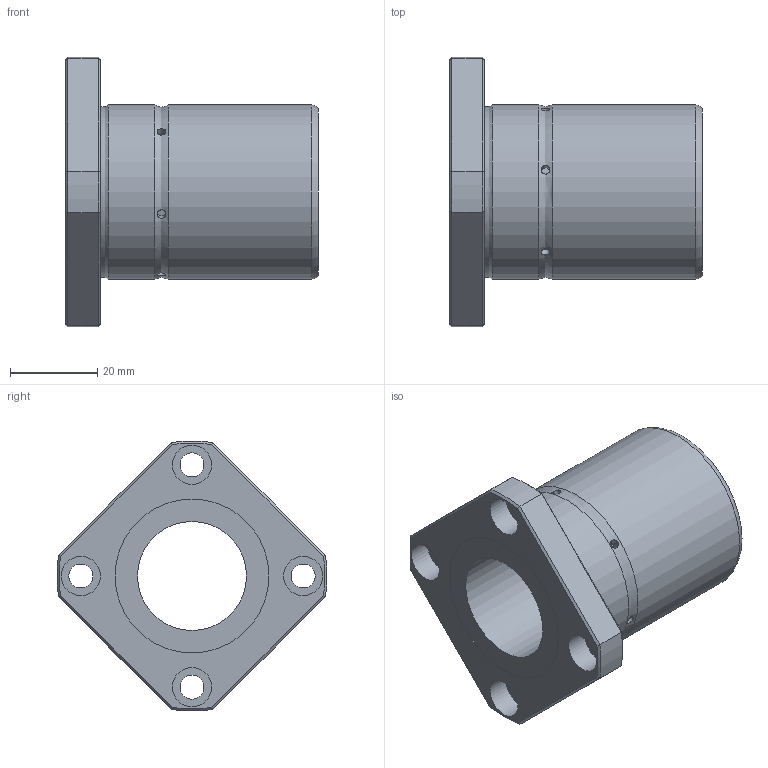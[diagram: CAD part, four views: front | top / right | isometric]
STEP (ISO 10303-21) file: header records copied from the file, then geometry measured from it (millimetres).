
FILE_DESCRIPTION((''),'2;1');
FILE_NAME('D:\製品 (図面)\カタログ用3D\リニアベアリング関連\STEP形式\LFK-OH\LFK25-OH.stp','2010-06-04T08:56:25',('Tsuchiya'),(''),'Autodesk Inventor 10','Autodesk Inventor 10','');
FILE_SCHEMA(('AUTOMOTIVE_DESIGN { 1 0 10303 214 1 1 1 1 }'));
Length unit declared in the file: millimetre
Products named in the file (1): LFK25-OH
Bounding box: 58 x 61.92 x 61.92 mm (x, y, z)
Volume: 51665 mm3; surface area: 16754.2 mm2
Topology: 1 solids, 1 shells, 61 faces, 124 edges, 78 vertices
Faces by surface type: cylinder 23, plane 21, bspline 8, cone 8, torus 1
Full cylindrical faces by diameter (mm): 5.5 x4, 9 x4, 25 x1, 35.3 x2, 40 x2
Entity records: 2223 total; most frequent: CARTESIAN_POINT 1072, DIRECTION 220, ORIENTED_EDGE 192, EDGE_LOOP 106, AXIS2_PLACEMENT_3D 98, EDGE_CURVE 96, VERTEX_POINT 72, FACE_OUTER_BOUND 61
